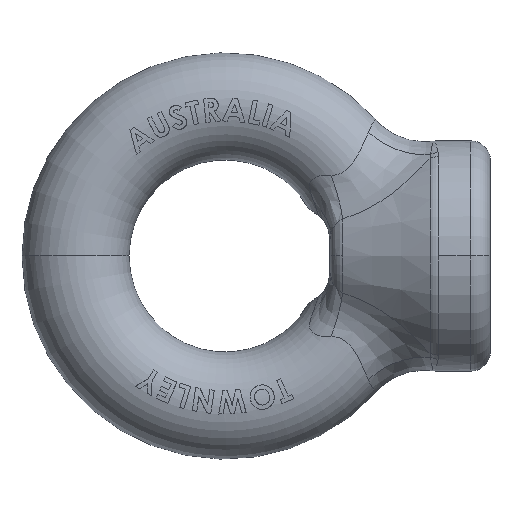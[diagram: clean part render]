
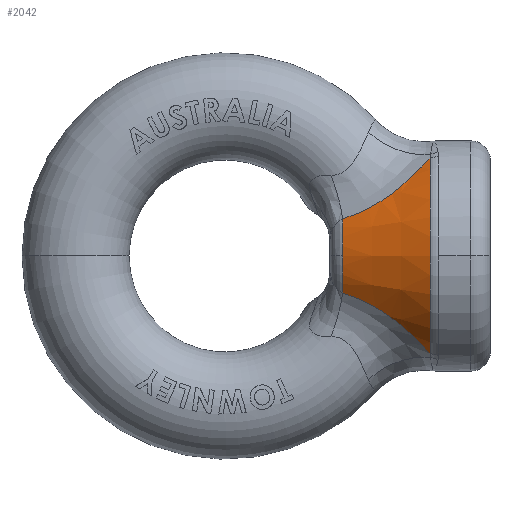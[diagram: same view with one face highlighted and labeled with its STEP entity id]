
A CAD part, top view. The second image highlights one B-rep face of the part: STEP entity #2042.
In plain terms, the highlighted conical face has half-angle 24.937 degrees and reference radius 17.2 mm.
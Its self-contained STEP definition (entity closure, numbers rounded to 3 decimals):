
#1476 = EDGE_CURVE ( 'NONE', #1477, #1478, #7305, .T. ) ;
#1477 = VERTEX_POINT ( 'NONE', #7364 ) ;
#1478 = VERTEX_POINT ( 'NONE', #7363 ) ;
#2018 = VERTEX_POINT ( 'NONE', #9042 ) ;
#2019 = ORIENTED_EDGE ( 'NONE', *, *, #2020, .T. ) ;
#2020 = EDGE_CURVE ( 'NONE', #2018, #2021, #9041, .T. ) ;
#2021 = VERTEX_POINT ( 'NONE', #9036 ) ;
#2022 = ORIENTED_EDGE ( 'NONE', *, *, #2023, .T. ) ;
#2023 = EDGE_CURVE ( 'NONE', #2021, #2024, #9035, .T. ) ;
#2024 = VERTEX_POINT ( 'NONE', #9034 ) ;
#2025 = ORIENTED_EDGE ( 'NONE', *, *, #2026, .F. ) ;
#2026 = EDGE_CURVE ( 'NONE', #1478, #2024, #9098, .T. ) ;
#2027 = ORIENTED_EDGE ( 'NONE', *, *, #1476, .F. ) ;
#2042 = ADVANCED_FACE ( 'NONE', ( #9109 ), #9108, .T. ) ;
#2043 = EDGE_LOOP ( 'NONE', ( #2044, #2019, #2022, #2025, #2027 ) ) ;
#2044 = ORIENTED_EDGE ( 'NONE', *, *, #2045, .T. ) ;
#2045 = EDGE_CURVE ( 'NONE', #1477, #2018, #9100, .T. ) ;
#7304 = AXIS2_PLACEMENT_3D ( 'NONE', #7367, #7366, #7365 ) ;
#7305 = CIRCLE ( 'NONE', #7304, 10.852 ) ;
#7363 = CARTESIAN_POINT ( 'NONE',  ( 17.547, 0., 10.852 ) ) ;
#7364 = CARTESIAN_POINT ( 'NONE',  ( 17.547, -5.551, 9.325 ) ) ;
#7365 = DIRECTION ( 'NONE',  ( 0., 0., 1. ) ) ;
#7366 = DIRECTION ( 'NONE',  ( -1., 0., 0. ) ) ;
#7367 = CARTESIAN_POINT ( 'NONE',  ( 17.547, 0., 0. ) ) ;
#9034 = CARTESIAN_POINT ( 'NONE',  ( 17.547, 5.551, 9.325 ) ) ;
#9035 = B_SPLINE_CURVE_WITH_KNOTS ( 'NONE', 3,
 ( #9093, #9092, #9091, #9090, #9089, #9088, #9087, #9086, #9085, #9084, #9083, #9082, #9081, #9080, #9079, #9078, #9077, #9076 ),
 .UNSPECIFIED., .F., .F.,
 ( 4, 2, 2, 2, 2, 2, 2, 2, 4 ),
 ( 0.038, 0.04, 0.042, 0.043, 0.044, 0.046, 0.048, 0.05, 0.054 ),
 .UNSPECIFIED. ) ;
#9036 = CARTESIAN_POINT ( 'NONE',  ( 30.598, 14.582, 8.583 ) ) ;
#9037 = DIRECTION ( 'NONE',  ( 0., 0., 1. ) ) ;
#9038 = DIRECTION ( 'NONE',  ( -1., 0., 0. ) ) ;
#9039 = CARTESIAN_POINT ( 'NONE',  ( 30.598, 0., 0. ) ) ;
#9040 = AXIS2_PLACEMENT_3D ( 'NONE', #9039, #9038, #9037 ) ;
#9041 = CIRCLE ( 'NONE', #9040, 16.92 ) ;
#9042 = CARTESIAN_POINT ( 'NONE',  ( 30.598, -14.582, 8.583 ) ) ;
#9076 = CARTESIAN_POINT ( 'NONE',  ( 17.547, 5.551, 9.325 ) ) ;
#9077 = CARTESIAN_POINT ( 'NONE',  ( 18.81, 5.933, 9.781 ) ) ;
#9078 = CARTESIAN_POINT ( 'NONE',  ( 20.051, 6.421, 10.163 ) ) ;
#9079 = CARTESIAN_POINT ( 'NONE',  ( 21.884, 7.354, 10.562 ) ) ;
#9080 = CARTESIAN_POINT ( 'NONE',  ( 22.483, 7.694, 10.664 ) ) ;
#9081 = CARTESIAN_POINT ( 'NONE',  ( 23.655, 8.424, 10.796 ) ) ;
#9082 = CARTESIAN_POINT ( 'NONE',  ( 24.231, 8.817, 10.828 ) ) ;
#9083 = CARTESIAN_POINT ( 'NONE',  ( 25.355, 9.644, 10.809 ) ) ;
#9084 = CARTESIAN_POINT ( 'NONE',  ( 25.897, 10.073, 10.76 ) ) ;
#9085 = CARTESIAN_POINT ( 'NONE',  ( 26.685, 10.736, 10.621 ) ) ;
#9086 = CARTESIAN_POINT ( 'NONE',  ( 26.944, 10.96, 10.564 ) ) ;
#9087 = CARTESIAN_POINT ( 'NONE',  ( 27.453, 11.414, 10.426 ) ) ;
#9088 = CARTESIAN_POINT ( 'NONE',  ( 27.704, 11.644, 10.345 ) ) ;
#9089 = CARTESIAN_POINT ( 'NONE',  ( 28.439, 12.334, 10.069 ) ) ;
#9090 = CARTESIAN_POINT ( 'NONE',  ( 28.903, 12.793, 9.84 ) ) ;
#9091 = CARTESIAN_POINT ( 'NONE',  ( 29.785, 13.698, 9.287 ) ) ;
#9092 = CARTESIAN_POINT ( 'NONE',  ( 30.203, 14.146, 8.962 ) ) ;
#9093 = CARTESIAN_POINT ( 'NONE',  ( 30.598, 14.582, 8.583 ) ) ;
#9094 = DIRECTION ( 'NONE',  ( 0., 0., 1. ) ) ;
#9095 = DIRECTION ( 'NONE',  ( -1., 0., 0. ) ) ;
#9096 = CARTESIAN_POINT ( 'NONE',  ( 17.547, 0., 0. ) ) ;
#9097 = AXIS2_PLACEMENT_3D ( 'NONE', #9096, #9095, #9094 ) ;
#9098 = CIRCLE ( 'NONE', #9097, 10.852 ) ;
#9100 = B_SPLINE_CURVE_WITH_KNOTS ( 'NONE', 3,
 ( #9101, #9171, #9170, #9169, #9168, #9167, #9166, #9165, #9164, #9163, #9162, #9161, #9160, #9159, #9158, #9157, #9156, #9155, #9154, #9153, #9152, #9151 ),
 .UNSPECIFIED., .F., .F.,
 ( 4, 2, 2, 2, 2, 2, 2, 2, 2, 2, 4 ),
 ( 0., 0.002, 0.004, 0.006, 0.007, 0.008, 0.01, 0.012, 0.013, 0.015, 0.017 ),
 .UNSPECIFIED. ) ;
#9101 = CARTESIAN_POINT ( 'NONE',  ( 17.547, -5.551, 9.325 ) ) ;
#9104 = DIRECTION ( 'NONE',  ( 0., 0., -1. ) ) ;
#9105 = DIRECTION ( 'NONE',  ( 1., 0., 0. ) ) ;
#9106 = CARTESIAN_POINT ( 'NONE',  ( 31.2, 0., 0. ) ) ;
#9107 = AXIS2_PLACEMENT_3D ( 'NONE', #9106, #9105, #9104 ) ;
#9108 = CONICAL_SURFACE ( 'NONE', #9107, 17.2, 0.435 ) ;
#9109 = FACE_OUTER_BOUND ( 'NONE', #2043, .T. ) ;
#9151 = CARTESIAN_POINT ( 'NONE',  ( 30.598, -14.582, 8.583 ) ) ;
#9152 = CARTESIAN_POINT ( 'NONE',  ( 30.203, -14.146, 8.962 ) ) ;
#9153 = CARTESIAN_POINT ( 'NONE',  ( 29.783, -13.696, 9.288 ) ) ;
#9154 = CARTESIAN_POINT ( 'NONE',  ( 28.901, -12.79, 9.842 ) ) ;
#9155 = CARTESIAN_POINT ( 'NONE',  ( 28.437, -12.332, 10.07 ) ) ;
#9156 = CARTESIAN_POINT ( 'NONE',  ( 27.703, -11.643, 10.346 ) ) ;
#9157 = CARTESIAN_POINT ( 'NONE',  ( 27.451, -11.413, 10.427 ) ) ;
#9158 = CARTESIAN_POINT ( 'NONE',  ( 26.941, -10.958, 10.564 ) ) ;
#9159 = CARTESIAN_POINT ( 'NONE',  ( 26.682, -10.734, 10.621 ) ) ;
#9160 = CARTESIAN_POINT ( 'NONE',  ( 25.896, -10.072, 10.76 ) ) ;
#9161 = CARTESIAN_POINT ( 'NONE',  ( 25.356, -9.645, 10.809 ) ) ;
#9162 = CARTESIAN_POINT ( 'NONE',  ( 24.522, -9.031, 10.823 ) ) ;
#9163 = CARTESIAN_POINT ( 'NONE',  ( 24.24, -8.831, 10.818 ) ) ;
#9164 = CARTESIAN_POINT ( 'NONE',  ( 23.666, -8.44, 10.789 ) ) ;
#9165 = CARTESIAN_POINT ( 'NONE',  ( 23.374, -8.249, 10.764 ) ) ;
#9166 = CARTESIAN_POINT ( 'NONE',  ( 22.489, -7.697, 10.665 ) ) ;
#9167 = CARTESIAN_POINT ( 'NONE',  ( 21.892, -7.358, 10.563 ) ) ;
#9168 = CARTESIAN_POINT ( 'NONE',  ( 20.677, -6.739, 10.3 ) ) ;
#9169 = CARTESIAN_POINT ( 'NONE',  ( 20.059, -6.459, 10.137 ) ) ;
#9170 = CARTESIAN_POINT ( 'NONE',  ( 18.809, -5.96, 9.763 ) ) ;
#9171 = CARTESIAN_POINT ( 'NONE',  ( 18.18, -5.742, 9.553 ) ) ;
